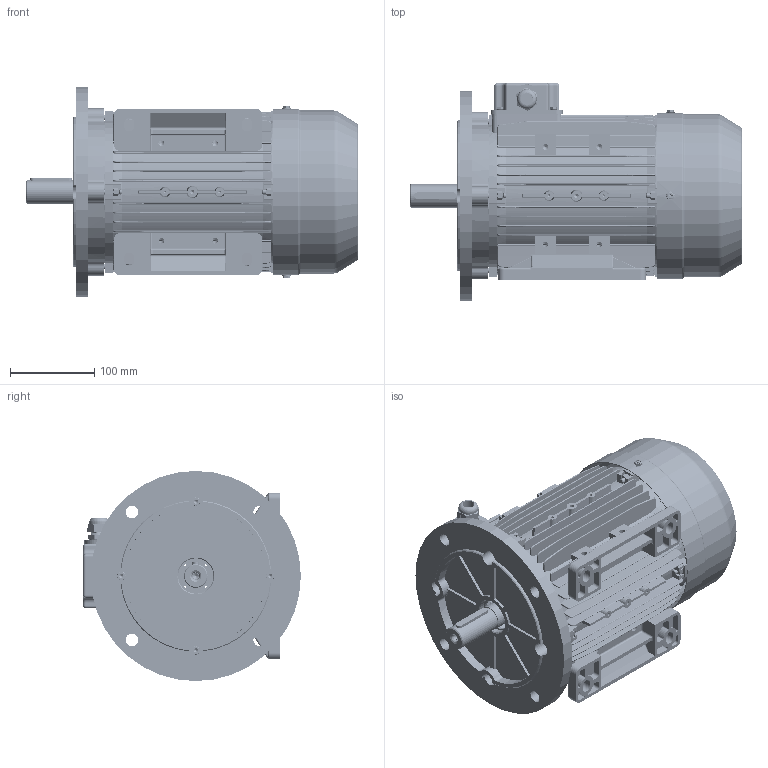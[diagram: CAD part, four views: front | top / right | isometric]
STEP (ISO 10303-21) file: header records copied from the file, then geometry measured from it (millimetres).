
FILE_DESCRIPTION (( 'STEP AP203' ), '1' );
FILE_NAME ('MSL100LX assembly B35.STEP', '2017-11-26T09:53:07', ( 'user' ), ( 'china' ), 'SwSTEP 2.0', 'SolidWorks 2016', '' );
FILE_SCHEMA (( 'CONFIG_CONTROL_DESIGN' ));
Length unit declared in the file: millimetre
Products named in the file (16): GB-T 5780-2000 M6_035; GB-T 41-2000 M6; M100傷裔B5; GB-T 29.2-1988 M4鞠褒坋趼湍菜_05; MSL80-90堤盄碟蚾饜; M100-Shaft drive end; M20 cable gland; M100瑞欶_101; MSL80-90堤盄碟_MSL80-90; M100菁褐; MSL100LX assembly B35; MS100 綴裔瑞欶郪磁_101; GB-T 70.1-2000 M6_34; M100傷裔_NonDriveEnd; GB-T 29.2-1988 M5鞠褒坋趼湍菜_08; M100儂褲_M100L
Assembly tree (34 placements, depth 3):
  MSL100LX assembly B35
    M100儂褲_M100L
    M100菁褐  x2
    M100-Shaft drive end
    MS100 綴裔瑞欶郪磁_101
      M100傷裔_NonDriveEnd
      M100瑞欶_101
      GB-T 29.2-1988 M5鞠褒坋趼湍菜_08  x3
    GB-T 41-2000 M6  x8
    GB-T 70.1-2000 M6_34  x4
    GB-T 5780-2000 M6_035  x4
    MSL80-90堤盄碟蚾饜
      MSL80-90堤盄碟_MSL80-90
      GB-T 29.2-1988 M4鞠褒坋趼湍菜_05  x4
      M20 cable gland
    M100傷裔B5
Bounding box: 395 x 259 x 250 mm (x, y, z)
Volume: 1903818 mm3; surface area: 1021659.8 mm2
Topology: 32 solids, 32 shells, 5472 faces, 14106 edges, 8736 vertices
Faces by surface type: plane 2039, cylinder 1573, cone 1082, bspline 560, torus 206, sphere 12
Entity records: 158780 total; most frequent: CARTESIAN_POINT 63605, ORIENTED_EDGE 20530, DIRECTION 17899, EDGE_CURVE 10265, VERTEX_POINT 6522, AXIS2_PLACEMENT_3D 6258, VECTOR 5383, LINE 5383
